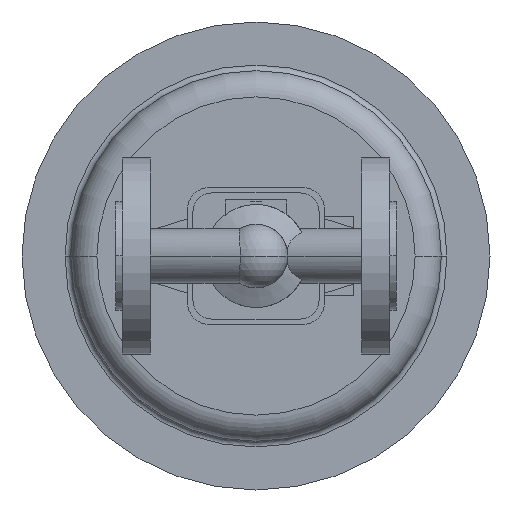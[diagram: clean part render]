
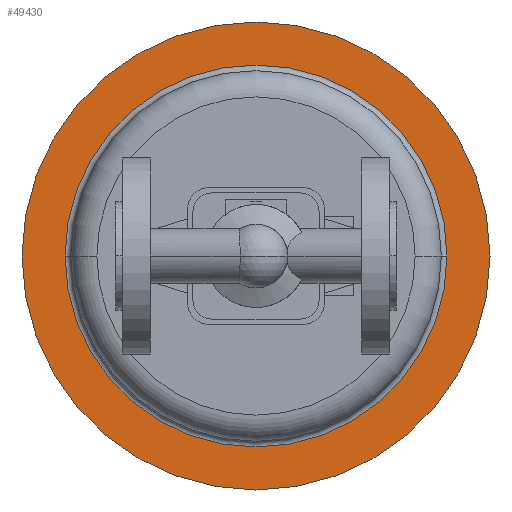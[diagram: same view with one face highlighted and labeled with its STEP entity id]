
A CAD part, front view. The second image highlights one B-rep face of the part: STEP entity #49430.
In plain terms, the highlighted planar face has unit normal (0, -1, 0).
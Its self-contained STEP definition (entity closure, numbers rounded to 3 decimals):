
#48830=CARTESIAN_POINT('',(75.,560.,0.));
#48840=DIRECTION('',(0.,1.,0.));
#48850=DIRECTION('',(1.,0.,0.));
#48860=AXIS2_PLACEMENT_3D('',#48830,#48840,#48850);
#48870=CIRCLE('',#48860,102.);
#48880=CARTESIAN_POINT('',(75.,560.,-102.));
#48890=VERTEX_POINT('',#48880);
#48900=CARTESIAN_POINT('',(-27.,560.,0.));
#48910=VERTEX_POINT('',#48900);
#48920=EDGE_CURVE('',#48890,#48910,#48870,.T.);
#49080=CARTESIAN_POINT('',(177.,560.,0.));
#49090=VERTEX_POINT('',#49080);
#49120=EDGE_CURVE('',#49090,#48890,#48870,.T.);
#49170=CARTESIAN_POINT('',(188.5,560.,0.));
#49180=DIRECTION('',(0.,-1.,0.));
#49190=DIRECTION('',(-1.,0.,0.));
#49200=AXIS2_PLACEMENT_3D('',#49170,#49180,#49190);
#49210=PLANE('',#49200);
#49220=CARTESIAN_POINT('',(75.,560.,0.));
#49230=DIRECTION('',(0.,1.,0.));
#49240=DIRECTION('',(1.,0.,0.));
#49250=AXIS2_PLACEMENT_3D('',#49220,#49230,#49240);
#49260=CIRCLE('',#49250,125.);
#49270=CARTESIAN_POINT('',(200.,560.,0.));
#49280=VERTEX_POINT('',#49270);
#49290=CARTESIAN_POINT('',(-50.,560.,0.));
#49300=VERTEX_POINT('',#49290);
#49310=EDGE_CURVE('',#49280,#49300,#49260,.T.);
#49320=ORIENTED_EDGE('',*,*,#49310,.F.);
#49330=EDGE_CURVE('',#49300,#49280,#49260,.T.);
#49340=ORIENTED_EDGE('',*,*,#49330,.F.);
#49350=EDGE_LOOP('',(#49340,#49320));
#49360=FACE_OUTER_BOUND('',#49350,.T.);
#49370=EDGE_CURVE('',#48910,#49090,#48870,.T.);
#49380=ORIENTED_EDGE('',*,*,#49370,.T.);
#49390=ORIENTED_EDGE('',*,*,#48920,.T.);
#49400=ORIENTED_EDGE('',*,*,#49120,.T.);
#49410=EDGE_LOOP('',(#49400,#49390,#49380));
#49420=FACE_BOUND('',#49410,.T.);
#49430=ADVANCED_FACE('',(#49360,#49420),#49210,.T.);
